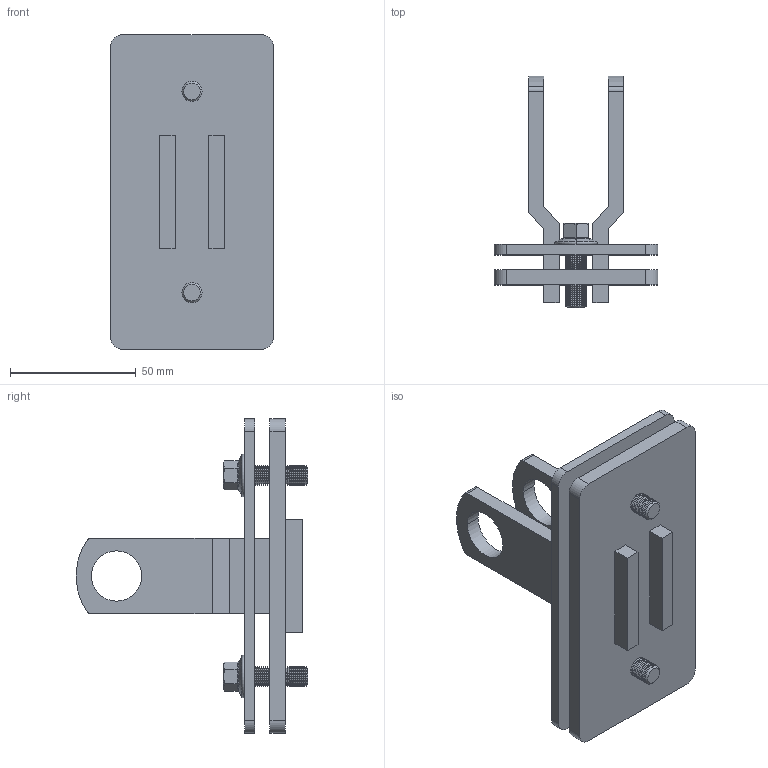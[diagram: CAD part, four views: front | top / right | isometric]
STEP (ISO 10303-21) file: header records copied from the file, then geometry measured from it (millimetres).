
FILE_DESCRIPTION (( 'STEP AP203' ), '1' );
FILE_NAME ('0｡聆ｪｽﾓ.STEP', '2022-02-10T03:16:34', ( '' ), ( '' ), 'SwSTEP 2.0', 'SolidWorks 2017', '' );
FILE_SCHEMA (( 'CONFIG_CONTROL_DESIGN' ));
Length unit declared in the file: millimetre
Products named in the file (5): 0°转接拉板; 0°转接底板; 0｡聆ｪｽﾓ; 0°转接压板; M8X25鞠褒楊擘醱_GB_FASTENER_BOLT_HFBSS M8X35-S
Assembly tree (6 placements, depth 2):
  0｡聆ｪｽﾓ
    0°转接底板
    0°转接拉板  x2
    0°转接压板
    M8X25鞠褒楊擘醱_GB_FASTENER_BOLT_HFBSS M8X35-S  x2
Bounding box: 65 x 92.01 x 125 mm (x, y, z)
Volume: 105644.7 mm3; surface area: 51284.7 mm2
Topology: 6 solids, 6 shells, 490 faces, 1040 edges, 564 vertices
Faces by surface type: cone 256, cylinder 150, plane 68, bspline 12, torus 4
Entity records: 7937 total; most frequent: CARTESIAN_POINT 1420, DIRECTION 1350, ORIENTED_EDGE 1168, EDGE_CURVE 584, AXIS2_PLACEMENT_3D 518, VERTEX_POINT 324, VECTOR 314, LINE 314
